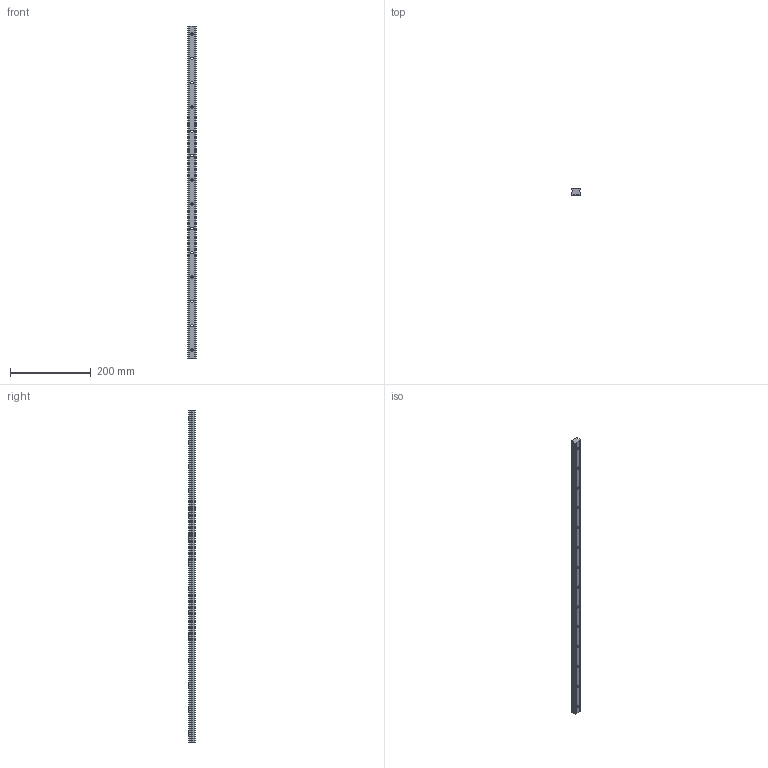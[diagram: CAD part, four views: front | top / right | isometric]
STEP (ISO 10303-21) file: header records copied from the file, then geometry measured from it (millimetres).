
FILE_DESCRIPTION (( 'STEP AP203' ), '1' );
FILE_NAME ('L1016.BL20-0820.step', '2019-06-12T11:47:29', ( '' ), ( '' ), 'SwSTEP 2.0', 'SolidWorks 2017', '' );
FILE_SCHEMA (( 'CONFIG_CONTROL_DESIGN' ));
Length unit declared in the file: millimetre
Products named in the file (1): L1016.BL20-0820
Bounding box: 20 x 16.3 x 820 mm (x, y, z)
Volume: 227746.1 mm3; surface area: 66455.9 mm2
Topology: 1 solids, 1 shells, 96 faces, 240 edges, 160 vertices
Faces by surface type: cylinder 60, plane 36
Entity records: 3057 total; most frequent: DIRECTION 554, CARTESIAN_POINT 497, ORIENTED_EDGE 480, EDGE_CURVE 240, AXIS2_PLACEMENT_3D 217, VERTEX_POINT 160, EDGE_LOOP 138, VECTOR 120
